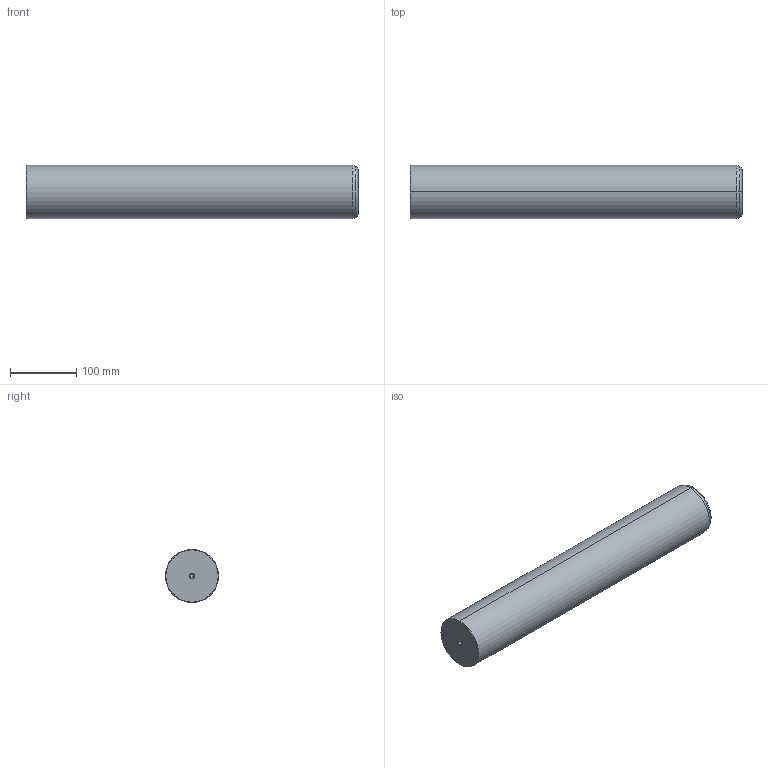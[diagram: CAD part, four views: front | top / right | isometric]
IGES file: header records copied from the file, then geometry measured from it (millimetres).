
Start section: START RECORD GO HERE.
Global section: file name: 720-80x500.igs; native system: DASSAULT SYSTEMES CATIA V5 R20 - www.3ds.com; preprocessor: CATIA Version 5 Release 20 ; author: Utente; organization: NB04-ASUS; date: 20201230.222016; units: millimetre
Bounding box: 500 x 80 x 80 mm (x, y, z)
Surface area: 135822.6 mm2 (no closed solid volume)
Topology: 0 solids, 0 shells, 22 faces, 120 edges, 116 vertices
Faces by surface type: revolution 20, plane 2
